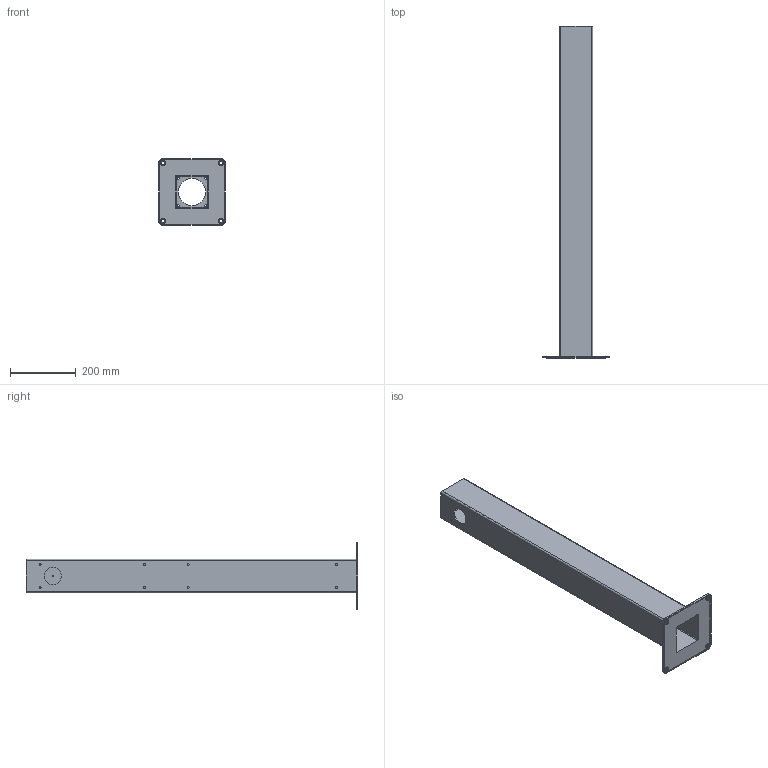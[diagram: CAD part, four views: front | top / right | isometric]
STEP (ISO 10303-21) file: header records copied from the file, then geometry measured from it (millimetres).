
FILE_DESCRIPTION (( 'STEP AP214' ), '1' );
FILE_NAME ('4X4 Pedestal for Yoke Mounts and Enclosures, PED4X4-xxx-40-H4.STEP', '2017-07-19T13:46:14', ( '' ), ( '' ), 'SwSTEP 2.0', 'SolidWorks 2017', '' );
FILE_SCHEMA (( 'AUTOMOTIVE_DESIGN' ));
Length unit declared in the file: inch
Products named in the file (1): 4X4 Pedestal for Yoke Mounts and Enclosures, PED4X4-xxx-40-H4
Bounding box: 203.2 x 1010.62 x 203.2 mm (x, y, z)
Volume: 1349070.9 mm3; surface area: 854779.9 mm2
Topology: 1 solids, 1 shells, 89 faces, 240 edges, 160 vertices
Faces by surface type: cylinder 64, plane 25
Entity records: 2982 total; most frequent: DIRECTION 548, CARTESIAN_POINT 490, ORIENTED_EDGE 480, EDGE_CURVE 240, AXIS2_PLACEMENT_3D 218, VERTEX_POINT 160, EDGE_LOOP 136, CIRCLE 128
